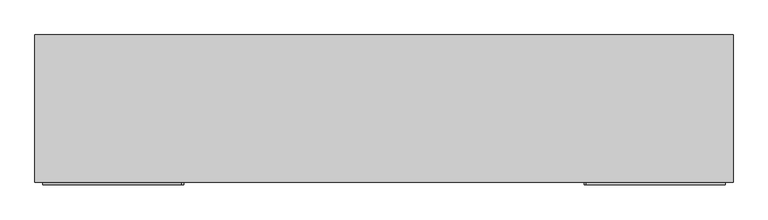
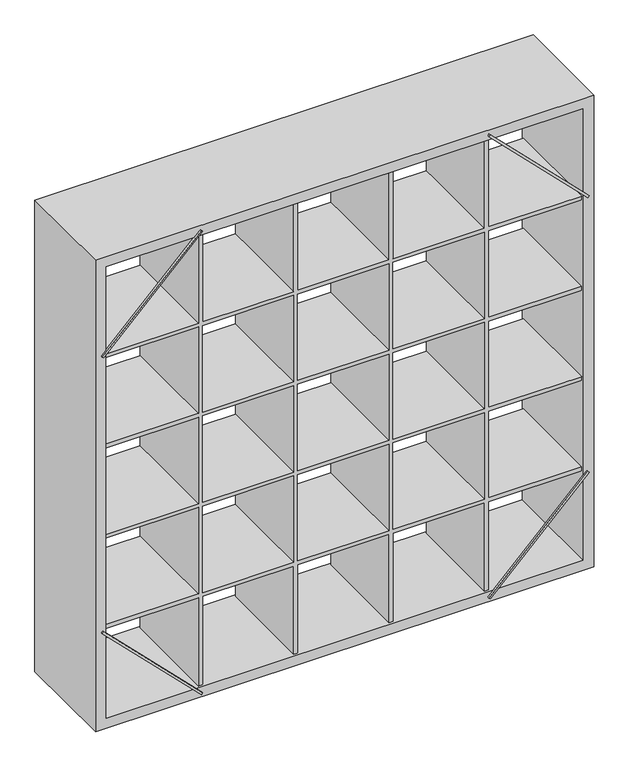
"""IFC4 building model written with IfcOpenShell, lengths in millimetres: furniture geometry, Expedit libreria IKEA : Expedit Libreria 185x185x39."""

import ifcopenshell
import ifcopenshell.guid

model = None  # the IFC model being written
_history = None  # IfcOwnerHistory: only IFC2X3 demands one
_inside = {}  # id of a spatial element -> (the spatial element, [elements in it])
_under = {}  # id of a project, library or spatial element -> (it, [spatial elements below it])
_declared = {}  # id of a project -> (the project, [libraries it declares])
_typed = {}  # id of a type object -> (the type object, [elements of that type])
_made_of = {}  # id of a material, layer set ... -> (it, [elements and type objects made of it])


def new_model(schema):
    """Start an empty IFC model of exactly this schema.

    Asked for "IFC4X3", IfcOpenShell would pick the latest addendum, in which some entities
    have other attributes; the version numbers below select the first issue.
    IFC2X3 requires an IfcOwnerHistory on every rooted entity: one is made here for all.
    """
    global model, _history
    if schema == "IFC4X3":
        model = ifcopenshell.file(schema_version=(4, 3, 0, 0))
    else:
        model = ifcopenshell.file(schema=schema)
    _inside.clear()
    _under.clear()
    _declared.clear()
    _typed.clear()
    _made_of.clear()
    _history = None
    if model.schema == "IFC2X3":
        org = make("IfcOrganization", Name="unknown")
        user = make(
            "IfcPersonAndOrganization",
            ThePerson=make("IfcPerson", FamilyName="unknown"),
            TheOrganization=org,
        )
        app = make(
            "IfcApplication",
            ApplicationDeveloper=org,
            Version="unknown",
            ApplicationFullName="unknown",
            ApplicationIdentifier="unknown",
        )
        _history = make(
            "IfcOwnerHistory",
            OwningUser=user,
            OwningApplication=app,
            ChangeAction="ADDED",
            CreationDate=0,
        )
    return model


def make(cls, **values):
    """One entity of the class cls with the attributes given. An attribute that is None is left unset."""
    return model.create_entity(
        cls, **{name: value for name, value in values.items() if value is not None}
    )


def rooted(cls, **values):
    """An entity with a GlobalId (a new one), such as an element, a storey or a relation."""
    return make(cls, GlobalId=ifcopenshell.guid.new(), OwnerHistory=_history, **values)


def si_unit(unit_type, name, prefix=None):
    """IfcSIUnit, for example si_unit("LENGTHUNIT", "METRE", prefix="MILLI")."""
    return make("IfcSIUnit", UnitType=unit_type, Prefix=prefix, Name=name)


def assignment(units):
    """IfcUnitAssignment: the units of a project."""
    return None if units is None else make("IfcUnitAssignment", Units=units)


def point(xyz):
    """IfcCartesianPoint."""
    return None if xyz is None else make("IfcCartesianPoint", Coordinates=xyz)


def direction(xyz):
    """IfcDirection."""
    return None if xyz is None else make("IfcDirection", DirectionRatios=xyz)


def frame(location, z_axis=None, x_axis=None):
    """IfcAxis2Placement3D, a coordinate frame: its origin and axes. An axis left out is left unset."""
    return make(
        "IfcAxis2Placement3D",
        Location=point(location),
        Axis=direction(z_axis),
        RefDirection=direction(x_axis),
    )


def origin():
    """The frame at (0, 0, 0) with its axes left unset."""
    return frame((0.0, 0.0, 0.0))


def place(relative_to, where):
    """IfcLocalPlacement: puts the frame where relative to a parent placement (None: the world)."""
    return make(
        "IfcLocalPlacement", PlacementRelTo=relative_to, RelativePlacement=where
    )


def context(
    kind, dimensions, precision=None, world=None, true_north=None, identifier=None
):
    """IfcGeometricRepresentationContext, for example the 3D "Model" context."""
    return make(
        "IfcGeometricRepresentationContext",
        ContextIdentifier=identifier,
        ContextType=kind,
        CoordinateSpaceDimension=dimensions,
        Precision=precision,
        WorldCoordinateSystem=world,
        TrueNorth=true_north,
    )


def project(units=None, contexts=None):
    """IfcProject with its units and contexts."""
    return rooted(
        "IfcProject",
        Name="project",
        RepresentationContexts=contexts,
        UnitsInContext=assignment(units),
    )


def spatial(cls, under=None, at=None, **own):
    """A site, building, storey or space (cls), placed at a placement, below another one or the project."""
    s = rooted(cls, ObjectPlacement=at, **own)
    if under is not None:
        _under.setdefault(under.id(), (under, []))[1].append(s)
    return s


def polyline(points):
    """IfcPolyline through the points."""
    return make("IfcPolyline", Points=[point(p) for p in points])


def outline(outer, holes=None, kind="AREA"):
    """IfcArbitraryClosedProfileDef: a profile drawn as a closed curve; with holes, ...WithVoids."""
    if holes is None:
        return make("IfcArbitraryClosedProfileDef", ProfileType=kind, OuterCurve=outer)
    return make(
        "IfcArbitraryProfileDefWithVoids",
        ProfileType=kind,
        OuterCurve=outer,
        InnerCurves=holes,
    )


def extrude(swept, where, along, depth):
    """IfcExtrudedAreaSolid: the profile swept, set in the frame where, extruded along a direction by depth."""
    return make(
        "IfcExtrudedAreaSolid",
        SweptArea=swept,
        Position=where,
        ExtrudedDirection=direction(along),
        Depth=depth,
    )


def shape(context_of_items, identifier, shape_type, items):
    """IfcShapeRepresentation: the items that make up one representation, for example the "Body"."""
    return make(
        "IfcShapeRepresentation",
        ContextOfItems=context_of_items,
        RepresentationIdentifier=identifier,
        RepresentationType=shape_type,
        Items=items,
    )


def source(mapping_origin, context_of_items, identifier, shape_type, items):
    """IfcRepresentationMap: a shape defined once, which mapped items show again and again."""
    return make(
        "IfcRepresentationMap",
        MappingOrigin=mapping_origin,
        MappedRepresentation=shape(context_of_items, identifier, shape_type, items),
    )


def transform(
    local_origin,
    x_axis=None,
    y_axis=None,
    z_axis=None,
    scale=None,
    scale2=None,
    scale3=None,
    uniform=True,
):
    """IfcCartesianTransformationOperator3D, or its non-uniform kind. x_axis, y_axis, z_axis: its Axis1, 2, 3."""
    if uniform:
        return make(
            "IfcCartesianTransformationOperator3D",
            Axis1=direction(x_axis),
            Axis2=direction(y_axis),
            LocalOrigin=point(local_origin),
            Scale=scale,
            Axis3=direction(z_axis),
        )
    return make(
        "IfcCartesianTransformationOperator3DnonUniform",
        Axis1=direction(x_axis),
        Axis2=direction(y_axis),
        LocalOrigin=point(local_origin),
        Scale=scale,
        Axis3=direction(z_axis),
        Scale2=scale2,
        Scale3=scale3,
    )


def mapped(mapping_source, mapping_target):
    """IfcMappedItem: shows the shape of a source again, moved by a transform."""
    return make(
        "IfcMappedItem", MappingSource=mapping_source, MappingTarget=mapping_target
    )


def made_of(thing, what):
    """Note that an element or type object is made of a material, layer set ...; save() writes the relation."""
    if what is not None:
        _made_of.setdefault(what.id(), (what, []))[1].append(thing)
    return thing


def element(
    cls,
    number,
    at=None,
    inside=None,
    cuts=None,
    type_object=None,
    material=None,
    context=None,
    identifier="Body",
    shape_type=None,
    held_by="IfcProductDefinitionShape",
    body=None,
    shapes=None,
    **own,
):
    """One element of the class cls, such as IfcWall. Its Tag is "e" and its number.

    at: its placement. inside: the storey or other place that contains it. cuts: it is an
    opening in that element (IfcRelVoidsElement). A single representation is given by context,
    identifier, shape_type and body (its items); several are given by shapes. held_by: the class
    of the entity that holds the representations. save() writes the other relations.
    """
    e = rooted(cls, Tag="e%d" % number, ObjectPlacement=at, **own)
    if body is not None:
        shapes = [shape(context, identifier, shape_type, body)]
    if shapes is not None:
        e.Representation = make(held_by, Representations=shapes)
    if inside is not None:
        _inside.setdefault(inside.id(), (inside, []))[1].append(e)
    if cuts is not None:
        rooted(
            "IfcRelVoidsElement", RelatingBuildingElement=cuts, RelatedOpeningElement=e
        )
    if type_object is not None:
        _typed.setdefault(type_object.id(), (type_object, []))[1].append(e)
    return made_of(e, material)


def aggregate(whole, parts):
    """IfcRelAggregates: a whole, such as a stair, and the parts it consists of."""
    return rooted("IfcRelAggregates", RelatingObject=whole, RelatedObjects=parts)


def save(model, path):
    """Write the relations noted so far, then the file.

    IfcRelAggregates (storeys below a building ...), IfcRelContainedInSpatialStructure (elements
    in a storey), IfcRelDefinesByType, IfcRelAssociatesMaterial and IfcRelDeclares: one each for
    every whole, place, type object, material and project.
    """
    for whole, parts in _under.values():
        aggregate(whole, parts)
    for where, things in _inside.values():
        rooted(
            "IfcRelContainedInSpatialStructure",
            RelatedElements=things,
            RelatingStructure=where,
        )
    for kind, things in _typed.values():
        rooted("IfcRelDefinesByType", RelatedObjects=things, RelatingType=kind)
    for what, things in _made_of.values():
        rooted("IfcRelAssociatesMaterial", RelatedObjects=things, RelatingMaterial=what)
    for by, libraries in _declared.values():
        rooted("IfcRelDeclares", RelatingContext=by, RelatedDefinitions=libraries)
    model.write(path)


def furniture_45a1625c(model_context):
    return source(origin(), model_context, "Body", "SweptSolid", [
        extrude(outline(polyline([(1463.5, -291.4462646), (1463.5, -637.9462646), (1448.5, -637.9462646), (1448.5, -291.4462646), (1109.5, -291.4462646), (1109.5, -637.9462646), (1094.5, -637.9462646), (1094.5, -291.4462646), (755.5, -291.4462646), (755.5, -637.9462646), (740.5, -637.9462646), (740.5, -291.4462646), (401.5, -291.4462646), (401.5, -637.9462646), (386.5, -637.9462646), (386.5, -291.4462646), (40.0, -291.4462646), (40.0, -276.4462646), (386.5, -276.4462646), (386.5, 62.5537354), (40.0, 62.5537354), (40.0, 77.5537354), (386.5, 77.5537354), (386.5, 416.5537354), (40.0, 416.5537354), (40.0, 431.5537354), (386.5, 431.5537354), (386.5, 770.5537354), (40.0, 770.5537354), (40.0, 785.5537354), (386.5, 785.5537354), (386.5, 1132.0537354), (401.5, 1132.0537354), (401.5, 785.5537354), (740.5, 785.5537354), (740.5, 1132.0537354), (755.5, 1132.0537354), (755.5, 785.5537354), (1094.5, 785.5537354), (1094.5, 1132.0537354), (1109.5, 1132.0537354), (1109.5, 785.5537354), (1448.5, 785.5537354), (1448.5, 1132.0537354), (1463.5, 1132.0537354), (1463.5, 785.5537354), (1810.0, 785.5537354), (1810.0, 770.5537354), (1463.5, 770.5537354), (1463.5, 431.5537354), (1810.0, 431.5537354), (1810.0, 416.5537354), (1463.5, 416.5537354), (1463.5, 77.5537354), (1810.0, 77.5537354), (1810.0, 62.5537354), (1463.5, 62.5537354), (1463.5, -276.4462646), (1810.0, -276.4462646), (1810.0, -291.4462646), (1463.5, -291.4462646)]), holes=[polyline([(1448.5, 62.5537354), (1109.5, 62.5537354), (1109.5, -276.4462646), (1448.5, -276.4462646), (1448.5, 62.5537354)]), polyline([(1109.5, 77.5537354), (1448.5, 77.5537354), (1448.5, 416.5537354), (1109.5, 416.5537354), (1109.5, 77.5537354)]), polyline([(1109.5, 431.5537354), (1448.5, 431.5537354), (1448.5, 770.5537354), (1109.5, 770.5537354), (1109.5, 431.5537354)]), polyline([(755.5, 770.5537354), (755.5, 431.5537354), (1094.5, 431.5537354), (1094.5, 770.5537354), (755.5, 770.5537354)]), polyline([(755.5, 416.5537354), (755.5, 77.5537354), (1094.5, 77.5537354), (1094.5, 416.5537354), (755.5, 416.5537354)]), polyline([(755.5, 62.5537354), (755.5, -276.4462646), (1094.5, -276.4462646), (1094.5, 62.5537354), (755.5, 62.5537354)]), polyline([(401.5, -276.4462646), (740.5, -276.4462646), (740.5, 62.5537354), (401.5, 62.5537354), (401.5, -276.4462646)]), polyline([(401.5, 77.5537354), (740.5, 77.5537354), (740.5, 416.5537354), (401.5, 416.5537354), (401.5, 77.5537354)]), polyline([(401.5, 431.5537354), (740.5, 431.5537354), (740.5, 770.5537354), (401.5, 770.5537354), (401.5, 431.5537354)])]), frame((0.0, -116.8917679, 0.0), z_axis=(0.0, 1.0, 0.0), x_axis=(0.0, 0.0, 1.0)), (0.0, 0.0, 1.0), 374.0),
        extrude(outline(polyline([(1850.0, 1172.0537354), (1850.0, -677.9462646), (0.0, -677.9462646), (0.0, 1172.0537354), (1850.0, 1172.0537354)]), holes=[polyline([(1810.0, 1132.0537354), (40.0, 1132.0537354), (40.0, -637.9462646), (1810.0, -637.9462646), (1810.0, 1132.0537354)])]), frame((0.0, -124.8917679, 0.0), z_axis=(0.0, 1.0, 0.0), x_axis=(0.0, 0.0, 1.0)), (0.0, 0.0, 1.0), 390.0),
        extrude(outline(polyline([(0.0, 520.0), (7.3410518, 520.0), (7.3410518, 0.0), (0.0, 0.0), (0.0, 520.0)])), frame((-656.5915383, -124.8917679, 382.7457787), z_axis=(0.7071067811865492, 0.0, 0.7071067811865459), x_axis=(0.0, -1.0, 0.0)), (0.0, 0.0, 1.0), 7.0),
        extrude(outline(polyline([(0.0, 7.0), (7.3410518, 7.0), (7.3410518, 0.0), (0.0, 0.0), (0.0, 7.0)])), frame((778.0537354, -124.8917679, 20.0), z_axis=(0.7071067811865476, 0.0, 0.7071067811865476), x_axis=(0.0, -1.0, 0.0)), (0.0, 0.0, 1.0), 520.0),
        extrude(outline(polyline([(0.0, 7.0), (7.3410518, 7.0), (7.3410518, 0.0), (0.0, 0.0), (0.0, 7.0)])), frame((-656.5915383, -124.8917679, 1467.2542213), z_axis=(0.7071067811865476, 0.0, 0.7071067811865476), x_axis=(0.0, -1.0, 0.0)), (0.0, 0.0, 1.0), 520.0),
        extrude(outline(polyline([(0.0, 520.0), (7.3410518, 520.0), (7.3410518, 0.0), (0.0, 0.0), (0.0, 520.0)])), frame((778.0537354, -124.8917679, 1830.0), z_axis=(0.7071067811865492, 0.0, 0.7071067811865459), x_axis=(0.0, -1.0, 0.0)), (0.0, 0.0, 1.0), 7.0),
    ])


if __name__ == "__main__":
    model = new_model("IFC4")
    model_context = context("Model", 3, world=origin())
    ifc_project = project(units=[si_unit("LENGTHUNIT", "METRE", prefix="MILLI")], contexts=[model_context])
    site = spatial("IfcSite", under=ifc_project)
    building = spatial("IfcBuilding", under=site)
    placement = place(None, origin())
    furniture_shape = furniture_45a1625c(model_context)
    element("IfcFurniture", 1, ObjectType="Expedit libreria IKEA : Expedit Libreria 185x185x39", at=placement, inside=building, context=model_context, shape_type="MappedRepresentation", body=[
        mapped(furniture_shape, transform((0.0, 0.0, 0.0), x_axis=(1.0, 0.0, 0.0), y_axis=(0.0, 1.0, 0.0), z_axis=(0.0, 0.0, 1.0))),
    ])
    save(model, "model.ifc")
